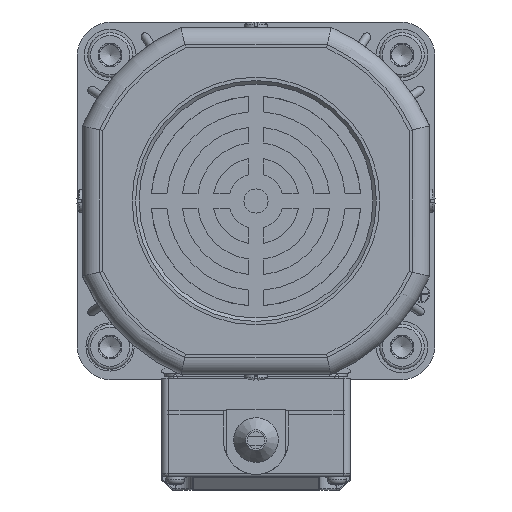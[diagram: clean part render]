
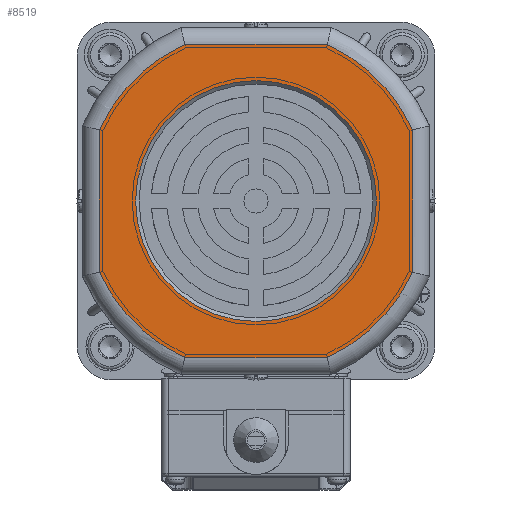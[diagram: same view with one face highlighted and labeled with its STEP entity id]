
A CAD part, left-side view. The second image highlights one B-rep face of the part: STEP entity #8519.
In plain terms, the highlighted planar face has unit normal (-1, 0, 0).
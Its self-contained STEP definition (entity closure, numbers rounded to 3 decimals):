
#719=LINE('',#43998,#2658);
#720=LINE('',#44014,#2659);
#723=LINE('',#44066,#2662);
#724=LINE('',#44082,#2663);
#2658=VECTOR('',#35259,1.);
#2659=VECTOR('',#35262,1.);
#2662=VECTOR('',#35279,1.);
#2663=VECTOR('',#35282,1.);
#4646=PLANE('',#31927);
#8519=ADVANCED_FACE('',(#10411,#10412),#4646,.F.);
#10411=FACE_BOUND('',#11376,.T.);
#10412=FACE_BOUND('',#11377,.T.);
#11376=EDGE_LOOP('',(#14275));
#11377=EDGE_LOOP('',(#14276,#14277,#14278,#14279,#14280,#14281,#14282,#14283));
#14275=ORIENTED_EDGE('',*,*,#25370,.T.);
#14276=ORIENTED_EDGE('',*,*,#25380,.T.);
#14277=ORIENTED_EDGE('',*,*,#25375,.T.);
#14278=ORIENTED_EDGE('',*,*,#25382,.T.);
#14279=ORIENTED_EDGE('',*,*,#25388,.T.);
#14280=ORIENTED_EDGE('',*,*,#25394,.T.);
#14281=ORIENTED_EDGE('',*,*,#25396,.T.);
#14282=ORIENTED_EDGE('',*,*,#25392,.T.);
#14283=ORIENTED_EDGE('',*,*,#25386,.T.);
#22360=VERTEX_POINT('',#43943);
#22365=VERTEX_POINT('',#43965);
#22366=VERTEX_POINT('',#43967);
#22368=VERTEX_POINT('',#43995);
#22371=VERTEX_POINT('',#44013);
#22372=VERTEX_POINT('',#44029);
#22375=VERTEX_POINT('',#44047);
#22376=VERTEX_POINT('',#44063);
#22379=VERTEX_POINT('',#44081);
#25370=EDGE_CURVE('',#22360,#22360,#29971,.T.);
#25375=EDGE_CURVE('',#22366,#22365,#29975,.T.);
#25380=EDGE_CURVE('',#22368,#22366,#719,.T.);
#25382=EDGE_CURVE('',#22365,#22371,#720,.T.);
#25386=EDGE_CURVE('',#22372,#22368,#29978,.T.);
#25388=EDGE_CURVE('',#22371,#22375,#29979,.T.);
#25392=EDGE_CURVE('',#22376,#22372,#723,.T.);
#25394=EDGE_CURVE('',#22375,#22379,#724,.T.);
#25396=EDGE_CURVE('',#22379,#22376,#29981,.T.);
#29971=CIRCLE('',#31665,35.);
#29975=CIRCLE('',#31671,50.);
#29978=CIRCLE('',#31677,50.);
#29979=CIRCLE('',#31679,50.);
#29981=CIRCLE('',#31684,50.);
#31665=AXIS2_PLACEMENT_3D('',#43942,#35240,#35241);
#31671=AXIS2_PLACEMENT_3D('',#43966,#35252,#35253);
#31677=AXIS2_PLACEMENT_3D('',#44032,#35268,#35269);
#31679=AXIS2_PLACEMENT_3D('',#44048,#35272,#35273);
#31684=AXIS2_PLACEMENT_3D('',#44085,#35286,#35287);
#31927=AXIS2_PLACEMENT_3D('',#44834,#35964,#35965);
#35240=DIRECTION('',(1.,0.,0.));
#35241=DIRECTION('',(0.,-1.,0.));
#35252=DIRECTION('',(-1.,0.,0.));
#35253=DIRECTION('',(0.,0.,1.));
#35259=DIRECTION('',(0.,-1.,0.));
#35262=DIRECTION('',(0.,0.,1.));
#35268=DIRECTION('',(-1.,0.,0.));
#35269=DIRECTION('',(0.,0.,1.));
#35272=DIRECTION('',(-1.,0.,0.));
#35273=DIRECTION('',(0.,0.,1.));
#35279=DIRECTION('',(0.,0.,-1.));
#35282=DIRECTION('',(0.,1.,0.));
#35286=DIRECTION('',(-1.,0.,0.));
#35287=DIRECTION('',(0.,0.,1.));
#35964=DIRECTION('',(1.,0.,0.));
#35965=DIRECTION('',(0.,0.,1.));
#43942=CARTESIAN_POINT('',(-298.374,-1.839,0.));
#43943=CARTESIAN_POINT('',(-298.374,-36.839,0.));
#43965=CARTESIAN_POINT('',(-298.374,-47.339,-20.73));
#43966=CARTESIAN_POINT('',(-298.374,-1.839,0.));
#43967=CARTESIAN_POINT('',(-298.374,-22.569,-45.5));
#43995=CARTESIAN_POINT('',(-298.374,18.891,-45.5));
#43998=CARTESIAN_POINT('',(-298.374,-23.628,-45.5));
#44013=CARTESIAN_POINT('',(-298.374,-47.339,20.73));
#44014=CARTESIAN_POINT('',(-298.374,-47.339,21.789));
#44029=CARTESIAN_POINT('',(-298.374,43.661,-20.73));
#44032=CARTESIAN_POINT('',(-298.374,-1.839,0.));
#44047=CARTESIAN_POINT('',(-298.374,-22.569,45.5));
#44048=CARTESIAN_POINT('',(-298.374,-1.839,0.));
#44063=CARTESIAN_POINT('',(-298.374,43.661,20.73));
#44066=CARTESIAN_POINT('',(-298.374,43.661,-21.789));
#44081=CARTESIAN_POINT('',(-298.374,18.891,45.5));
#44082=CARTESIAN_POINT('',(-298.374,19.95,45.5));
#44085=CARTESIAN_POINT('',(-298.374,-1.839,0.));
#44834=CARTESIAN_POINT('',(-298.374,-1.839,0.));
